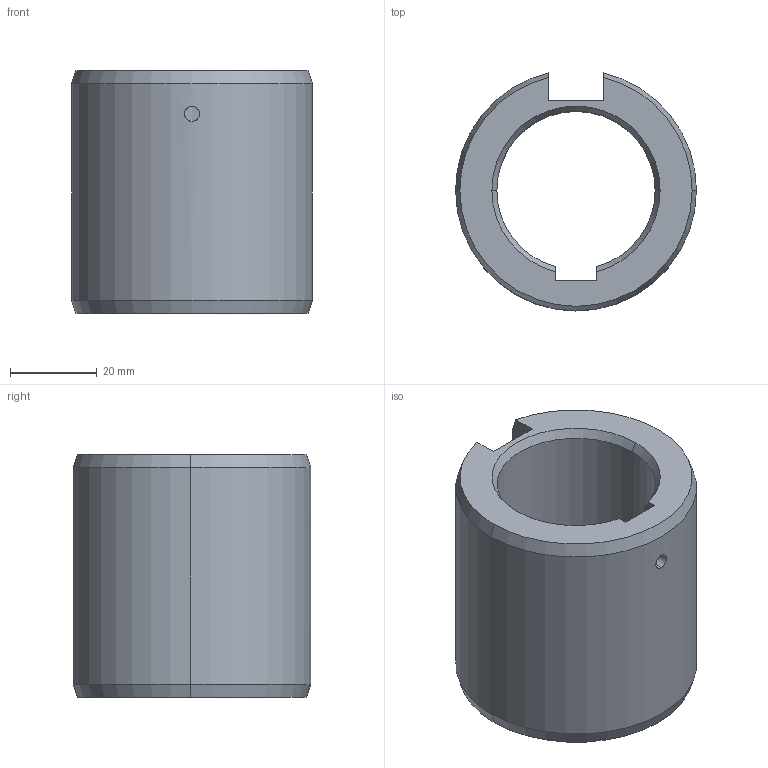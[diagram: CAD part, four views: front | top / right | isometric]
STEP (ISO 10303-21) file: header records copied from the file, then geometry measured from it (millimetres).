
FILE_DESCRIPTION (( 'STEP AP203' ), '1' );
FILE_NAME ('KBSH083P23.STEP', '2023-08-01T05:26:24', ( '' ), ( '' ), 'SwSTEP 2.0', 'SolidWorks 2017', '' );
FILE_SCHEMA (( 'CONFIG_CONTROL_DESIGN' ));
Length unit declared in the file: millimetre
Products named in the file (1): KBSH083P23
Bounding box: 55.56 x 54.83 x 56 mm (x, y, z)
Volume: 69956.8 mm3; surface area: 19383.8 mm2
Topology: 1 solids, 1 shells, 28 faces, 70 edges, 44 vertices
Faces by surface type: cone 12, cylinder 8, plane 8
Entity records: 977 total; most frequent: CARTESIAN_POINT 219, DIRECTION 144, ORIENTED_EDGE 140, EDGE_CURVE 70, AXIS2_PLACEMENT_3D 55, VERTEX_POINT 44, LINE 34, VECTOR 34
